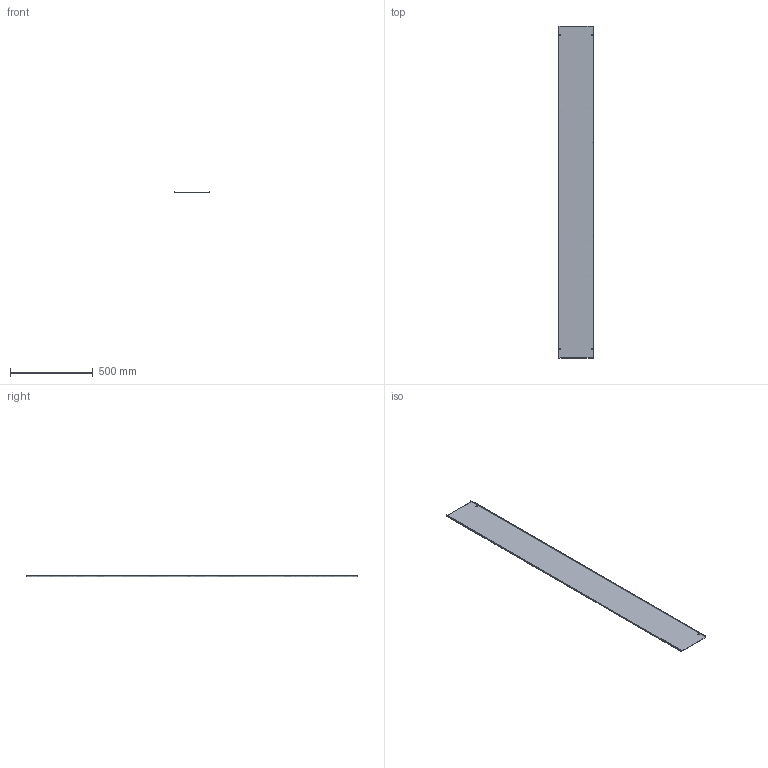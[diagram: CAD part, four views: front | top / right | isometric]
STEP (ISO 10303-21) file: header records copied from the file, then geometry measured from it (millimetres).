
FILE_DESCRIPTION(/* description */ (''),/* implementation_level */ '2;1');
FILE_NAME(/* name */ 'VZM200',/* time_stamp */ '2012-11-29T22:52:45+01:00',/* author */ (''),/* organization */ (''),/* preprocessor_version */ 'ST-DEVELOPER v10',/* originating_system */ '',/* authorisation */ '');
FILE_SCHEMA (('AUTOMOTIVE_DESIGN_CC2'));
Length unit declared in the file: millimetre
Products named in the file (1): 1
Bounding box: 211 x 2002 x 10.5 mm (x, y, z)
Surface area: 904777.6 mm2 (no closed solid volume)
Topology: 0 solids, 22 shells, 22 faces, 120 edges, 120 vertices
Faces by surface type: plane 18, bspline 4
Entity records: 1488 total; most frequent: CARTESIAN_POINT 644, ORIENTED_EDGE 120, EDGE_CURVE 120, VERTEX_POINT 120, B_SPLINE_CURVE_WITH_KNOTS 104, EDGE_LOOP 30, COLOUR_RGB 22, FILL_AREA_STYLE_COLOUR 22
